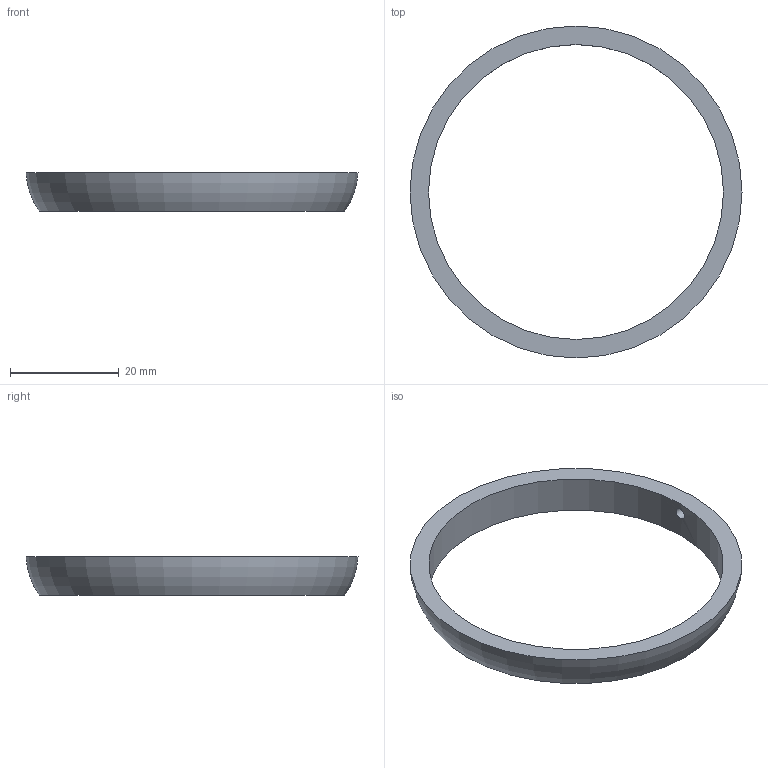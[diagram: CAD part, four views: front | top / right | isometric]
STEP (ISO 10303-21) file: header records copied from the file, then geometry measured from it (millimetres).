
FILE_DESCRIPTION(('Open CASCADE Model'),'2;1');
FILE_NAME('Open CASCADE Shape Model','2026-11-26T14:02:28',('Author'),( 'Open CASCADE'),'Open CASCADE STEP processor 7.9','Open CASCADE 7.9' ,'Unknown');
FILE_SCHEMA(('AUTOMOTIVE_DESIGN { 1 0 10303 214 1 1 1 1 }'));
Length unit declared in the file: millimetre
Products named in the file (1): Open CASCADE STEP translator 7.9 7
Bounding box: 61 x 61 x 7 mm (x, y, z)
Volume: 3184.8 mm3; surface area: 3386.9 mm2
Topology: 1 solids, 1 shells, 6 faces, 11 edges, 7 vertices
Faces by surface type: plane 3, cylinder 2, torus 1
Full cylindrical faces by diameter (mm): 2.1 x1, 54.2 x1
Entity records: 466 total; most frequent: CARTESIAN_POINT 215, DIRECTION 47, ORIENTED_EDGE 22, PCURVE 22, DEFINITIONAL_REPRESENTATION 22, LINE 16, VECTOR 16, AXIS2_PLACEMENT_3D 13
